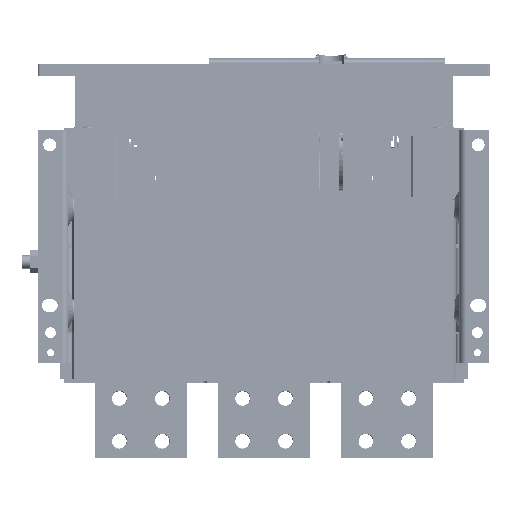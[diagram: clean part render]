
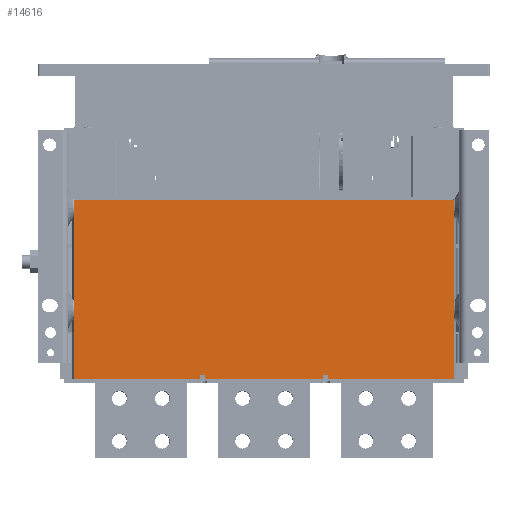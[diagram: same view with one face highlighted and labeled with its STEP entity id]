
A CAD part, front view. The second image highlights one B-rep face of the part: STEP entity #14616.
In plain terms, the highlighted planar face has unit normal (0, -1, 0) as drawn and (1, 0, 0) by its records, which use the part's own axes.
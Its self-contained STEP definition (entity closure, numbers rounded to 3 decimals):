
#8015 = VECTOR ( 'NONE', #69758, 1000. ) ;
#8361 = VECTOR ( 'NONE', #202520, 1000. ) ;
#14616 = ADVANCED_FACE ( 'NONE', ( #51580 ), #244567, .T. ) ;
#15478 = VECTOR ( 'NONE', #121487, 1000. ) ;
#16819 = CARTESIAN_POINT ( 'NONE',  ( 358.258, 41.436, -122. ) ) ;
#19462 = EDGE_CURVE ( 'NONE', #139012, #114235, #167777, .T. ) ;
#22579 = VERTEX_POINT ( 'NONE', #160922 ) ;
#28937 = DIRECTION ( 'NONE',  ( 0., 0., 1. ) ) ;
#31416 = CARTESIAN_POINT ( 'NONE',  ( 358.258, -81.064, -289.5 ) ) ;
#32545 = ORIENTED_EDGE ( 'NONE', *, *, #36069, .F. ) ;
#36069 = EDGE_CURVE ( 'NONE', #114235, #190300, #191127, .T. ) ;
#36594 = ORIENTED_EDGE ( 'NONE', *, *, #75534, .T. ) ;
#38205 = ORIENTED_EDGE ( 'NONE', *, *, #122284, .T. ) ;
#47645 = ORIENTED_EDGE ( 'NONE', *, *, #110810, .T. ) ;
#51580 = FACE_OUTER_BOUND ( 'NONE', #234289, .T. ) ;
#53461 = CARTESIAN_POINT ( 'NONE',  ( 358.258, -76.064, -285. ) ) ;
#59524 = VECTOR ( 'NONE', #229417, 1000. ) ;
#60946 = CARTESIAN_POINT ( 'NONE',  ( 358.258, -81.064, -285. ) ) ;
#62503 = VERTEX_POINT ( 'NONE', #248111 ) ;
#69758 = DIRECTION ( 'NONE',  ( 0., -1., 0. ) ) ;
#70722 = CARTESIAN_POINT ( 'NONE',  ( 358.258, -196.064, -289.5 ) ) ;
#71479 = LINE ( 'NONE', #206991, #161611 ) ;
#73519 = CARTESIAN_POINT ( 'NONE',  ( 358.258, -191.064, -285. ) ) ;
#75062 = VERTEX_POINT ( 'NONE', #53461 ) ;
#75534 = EDGE_CURVE ( 'NONE', #90937, #207859, #124819, .T. ) ;
#78022 = AXIS2_PLACEMENT_3D ( 'NONE', #206254, #164118, #128269 ) ;
#80625 = DIRECTION ( 'NONE',  ( 0., 0., -1. ) ) ;
#90937 = VERTEX_POINT ( 'NONE', #230236 ) ;
#91929 = VECTOR ( 'NONE', #245726, 1000. ) ;
#93897 = LINE ( 'NONE', #248581, #59524 ) ;
#94511 = CARTESIAN_POINT ( 'NONE',  ( 358.258, -196.064, -285. ) ) ;
#110810 = EDGE_CURVE ( 'NONE', #180255, #190300, #93897, .T. ) ;
#114235 = VERTEX_POINT ( 'NONE', #232122 ) ;
#115712 = CARTESIAN_POINT ( 'NONE',  ( 358.258, -196.064, -289.5 ) ) ;
#121487 = DIRECTION ( 'NONE',  ( 0., -1., 0. ) ) ;
#122284 = EDGE_CURVE ( 'NONE', #22579, #62503, #250704, .T. ) ;
#124819 = LINE ( 'NONE', #70722, #208196 ) ;
#126071 = CARTESIAN_POINT ( 'NONE',  ( 358.258, -76.064, -289.5 ) ) ;
#126578 = VECTOR ( 'NONE', #173999, 1000. ) ;
#128269 = DIRECTION ( 'NONE',  ( 0., 1., 0. ) ) ;
#128279 = CARTESIAN_POINT ( 'NONE',  ( 358.258, 41.436, -289.5 ) ) ;
#132105 = EDGE_CURVE ( 'NONE', #137628, #75062, #202801, .T. ) ;
#133104 = VERTEX_POINT ( 'NONE', #240532 ) ;
#137628 = VERTEX_POINT ( 'NONE', #221921 ) ;
#139012 = VERTEX_POINT ( 'NONE', #60946 ) ;
#139398 = EDGE_CURVE ( 'NONE', #197577, #137628, #242078, .T. ) ;
#141923 = CARTESIAN_POINT ( 'NONE',  ( 358.258, 41.436, -122. ) ) ;
#142286 = ORIENTED_EDGE ( 'NONE', *, *, #139398, .F. ) ;
#144471 = VECTOR ( 'NONE', #193209, 1000. ) ;
#149408 = DIRECTION ( 'NONE',  ( 0., 1., 0. ) ) ;
#149847 = EDGE_CURVE ( 'NONE', #133104, #197577, #162387, .T. ) ;
#152137 = ORIENTED_EDGE ( 'NONE', *, *, #210766, .T. ) ;
#154597 = ORIENTED_EDGE ( 'NONE', *, *, #19462, .F. ) ;
#157073 = EDGE_CURVE ( 'NONE', #75062, #139012, #163629, .T. ) ;
#160117 = EDGE_CURVE ( 'NONE', #90937, #62503, #170726, .T. ) ;
#160922 = CARTESIAN_POINT ( 'NONE',  ( 358.258, -313.564, -122. ) ) ;
#161611 = VECTOR ( 'NONE', #149408, 1000. ) ;
#162387 = LINE ( 'NONE', #141923, #202484 ) ;
#163629 = LINE ( 'NONE', #240329, #15478 ) ;
#164118 = DIRECTION ( 'NONE',  ( 1., 0., 0. ) ) ;
#167777 = LINE ( 'NONE', #207402, #91929 ) ;
#169747 = ORIENTED_EDGE ( 'NONE', *, *, #199216, .T. ) ;
#170726 = LINE ( 'NONE', #115712, #208020 ) ;
#173999 = DIRECTION ( 'NONE',  ( 0., 0., -1. ) ) ;
#180255 = VERTEX_POINT ( 'NONE', #73519 ) ;
#190300 = VERTEX_POINT ( 'NONE', #233793 ) ;
#191127 = LINE ( 'NONE', #31416, #8015 ) ;
#193209 = DIRECTION ( 'NONE',  ( 0., -1., 0. ) ) ;
#193463 = VECTOR ( 'NONE', #28937, 1000. ) ;
#194272 = ORIENTED_EDGE ( 'NONE', *, *, #157073, .F. ) ;
#197577 = VERTEX_POINT ( 'NONE', #239398 ) ;
#199216 = EDGE_CURVE ( 'NONE', #133104, #22579, #230310, .T. ) ;
#199681 = ORIENTED_EDGE ( 'NONE', *, *, #160117, .F. ) ;
#202484 = VECTOR ( 'NONE', #80625, 1000. ) ;
#202520 = DIRECTION ( 'NONE',  ( 0., -1., 0. ) ) ;
#202801 = LINE ( 'NONE', #126071, #193463 ) ;
#206254 = CARTESIAN_POINT ( 'NONE',  ( 358.258, 29.936, -200. ) ) ;
#206991 = CARTESIAN_POINT ( 'NONE',  ( 358.258, -196.064, -285. ) ) ;
#207402 = CARTESIAN_POINT ( 'NONE',  ( 358.258, -81.064, -285. ) ) ;
#207499 = DIRECTION ( 'NONE',  ( 0., 0., 1. ) ) ;
#207859 = VERTEX_POINT ( 'NONE', #94511 ) ;
#208020 = VECTOR ( 'NONE', #211622, 1000. ) ;
#208196 = VECTOR ( 'NONE', #207499, 1000. ) ;
#210766 = EDGE_CURVE ( 'NONE', #207859, #180255, #71479, .T. ) ;
#211622 = DIRECTION ( 'NONE',  ( 0., -1., 0. ) ) ;
#221921 = CARTESIAN_POINT ( 'NONE',  ( 358.258, -76.064, -289.5 ) ) ;
#229417 = DIRECTION ( 'NONE',  ( 0., 0., -1. ) ) ;
#230236 = CARTESIAN_POINT ( 'NONE',  ( 358.258, -196.064, -289.5 ) ) ;
#230310 = LINE ( 'NONE', #16819, #144471 ) ;
#232122 = CARTESIAN_POINT ( 'NONE',  ( 358.258, -81.064, -289.5 ) ) ;
#232793 = CARTESIAN_POINT ( 'NONE',  ( 358.258, -313.564, -122. ) ) ;
#233793 = CARTESIAN_POINT ( 'NONE',  ( 358.258, -191.064, -289.5 ) ) ;
#234289 = EDGE_LOOP ( 'NONE', ( #38205, #199681, #36594, #152137, #47645, #32545, #154597, #194272, #240836, #142286, #236797, #169747 ) ) ;
#236797 = ORIENTED_EDGE ( 'NONE', *, *, #149847, .F. ) ;
#239398 = CARTESIAN_POINT ( 'NONE',  ( 358.258, 41.436, -289.5 ) ) ;
#240329 = CARTESIAN_POINT ( 'NONE',  ( 358.258, -76.064, -285. ) ) ;
#240532 = CARTESIAN_POINT ( 'NONE',  ( 358.258, 41.436, -122. ) ) ;
#240836 = ORIENTED_EDGE ( 'NONE', *, *, #132105, .F. ) ;
#242078 = LINE ( 'NONE', #128279, #8361 ) ;
#244567 = PLANE ( 'NONE',  #78022 ) ;
#245726 = DIRECTION ( 'NONE',  ( 0., 0., -1. ) ) ;
#248111 = CARTESIAN_POINT ( 'NONE',  ( 358.258, -313.564, -289.5 ) ) ;
#248581 = CARTESIAN_POINT ( 'NONE',  ( 358.258, -191.064, -285. ) ) ;
#250704 = LINE ( 'NONE', #232793, #126578 ) ;
